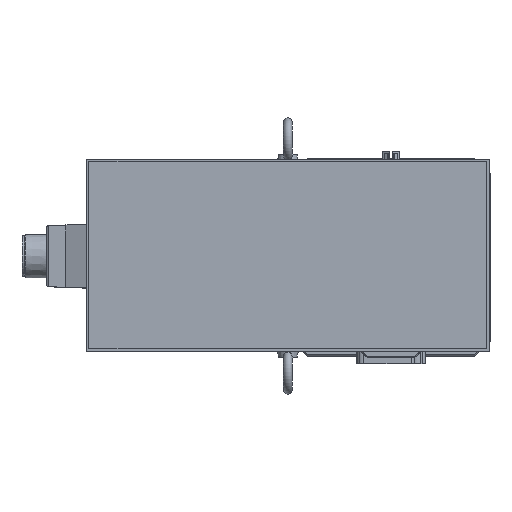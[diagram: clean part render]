
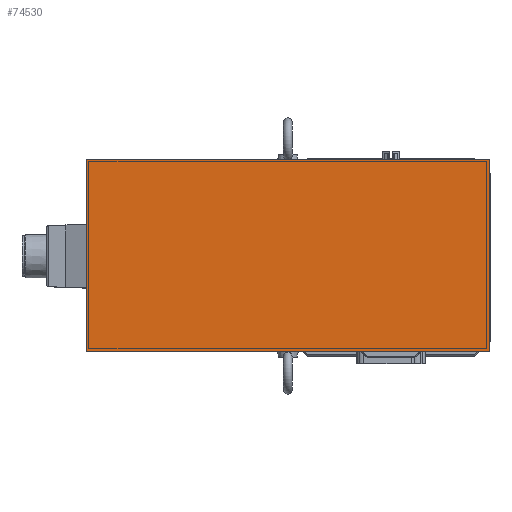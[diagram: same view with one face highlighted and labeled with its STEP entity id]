
A CAD part, top view. The second image highlights one B-rep face of the part: STEP entity #74530.
In plain terms, the highlighted planar face has unit normal (0, 0, 1).
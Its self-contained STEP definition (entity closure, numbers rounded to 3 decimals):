
#74491=CARTESIAN_POINT('',(-75.5,-77.,621.));
#74492=DIRECTION('',(0.,-1.,0.));
#74493=DIRECTION('',(-0.,0.,1.));
#74494=AXIS2_PLACEMENT_3D('',#74491,#74493,#74492);
#74495=PLANE('',#74494);
#74496=CARTESIAN_POINT('',(72.,70.5,621.));
#74497=VERTEX_POINT('',#74496);
#74498=CARTESIAN_POINT('',(-223.,70.5,621.));
#74499=VERTEX_POINT('',#74498);
#74500=CARTESIAN_POINT('',(72.,70.5,621.));
#74501=DIRECTION('',(-1.,0.,0.));
#74502=VECTOR('',#74501,295.);
#74503=LINE('',#74500,#74502);
#74504=EDGE_CURVE('',#74497,#74499,#74503,.T.);
#74505=ORIENTED_EDGE('E1',*,*,#74504,.T.);
#74506=CARTESIAN_POINT('',(-223.,-70.5,621.));
#74507=VERTEX_POINT('',#74506);
#74508=CARTESIAN_POINT('',(-223.,70.5,621.));
#74509=DIRECTION('',(0.,-1.,0.));
#74510=VECTOR('',#74509,141.);
#74511=LINE('',#74508,#74510);
#74512=EDGE_CURVE('',#74499,#74507,#74511,.T.);
#74513=ORIENTED_EDGE('E2',*,*,#74512,.T.);
#74514=CARTESIAN_POINT('',(72.,-70.5,621.));
#74515=VERTEX_POINT('',#74514);
#74516=CARTESIAN_POINT('',(-223.,-70.5,621.));
#74517=DIRECTION('',(1.,0.,0.));
#74518=VECTOR('',#74517,295.);
#74519=LINE('',#74516,#74518);
#74520=EDGE_CURVE('',#74507,#74515,#74519,.T.);
#74521=ORIENTED_EDGE('E3',*,*,#74520,.T.);
#74522=CARTESIAN_POINT('',(72.,-70.5,621.));
#74523=DIRECTION('',(0.,1.,0.));
#74524=VECTOR('',#74523,141.);
#74525=LINE('',#74522,#74524);
#74526=EDGE_CURVE('',#74515,#74497,#74525,.T.);
#74527=ORIENTED_EDGE('E4',*,*,#74526,.T.);
#74528=EDGE_LOOP('',(#74505,#74513,#74521,#74527));
#74529=FACE_OUTER_BOUND('',#74528,.T.);
#74530=ADVANCED_FACE('F1',(#74529),#74495,.T.);
